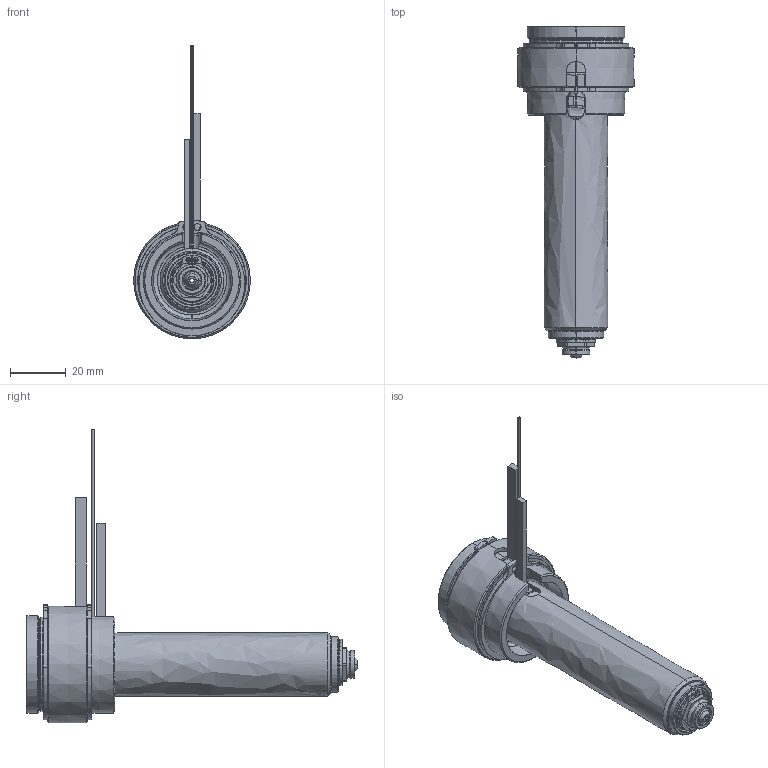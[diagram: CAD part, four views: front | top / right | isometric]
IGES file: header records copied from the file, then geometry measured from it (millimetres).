
Start section: SolidWorks IGES file using analytic representation for surfaces
Global section: file name: C:\Documents and Settings\ws-20\Desktop\TEM\UGER3552-S-A-1 [Øb-1.70  ØC-6.0].IGS; native system: SolidWorks 2012; preprocessor: SolidWorks 2012; author: ws-20; date: 120410.094711; units: millimetre
Bounding box: 42 x 119.4 x 105.6 mm (x, y, z)
Surface area: 38226.7 mm2 (no closed solid volume)
Topology: 0 solids, 0 shells, 213 faces, 3620 edges, 3620 vertices
Faces by surface type: revolution 138, bspline 75
